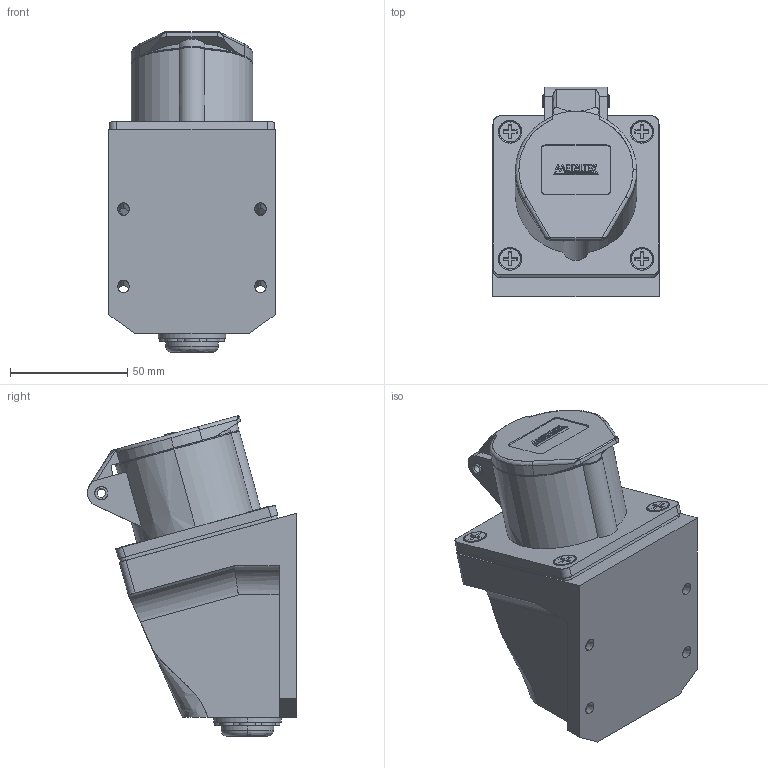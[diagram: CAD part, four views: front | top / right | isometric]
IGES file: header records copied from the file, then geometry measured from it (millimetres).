
Start section: SolidWorks IGES file using analytic representation for surfaces
Global section: file name: D:\X - Arquivos\PROEX\Empresas\P11 - METALTEX\01 - Produtos\IGES\4ª remessa\3ª etapa\TLS16432.IGS; native system: SolidWorks 2012; preprocessor: SolidWorks 2012; author: Usuario; date: 180418.161352; units: millimetre
Bounding box: 71 x 89.47 x 136.84 mm (x, y, z)
Surface area: 57507.2 mm2 (no closed solid volume)
Topology: 0 solids, 0 shells, 528 faces, 7400 edges, 7397 vertices
Faces by surface type: bspline 332, revolution 196
